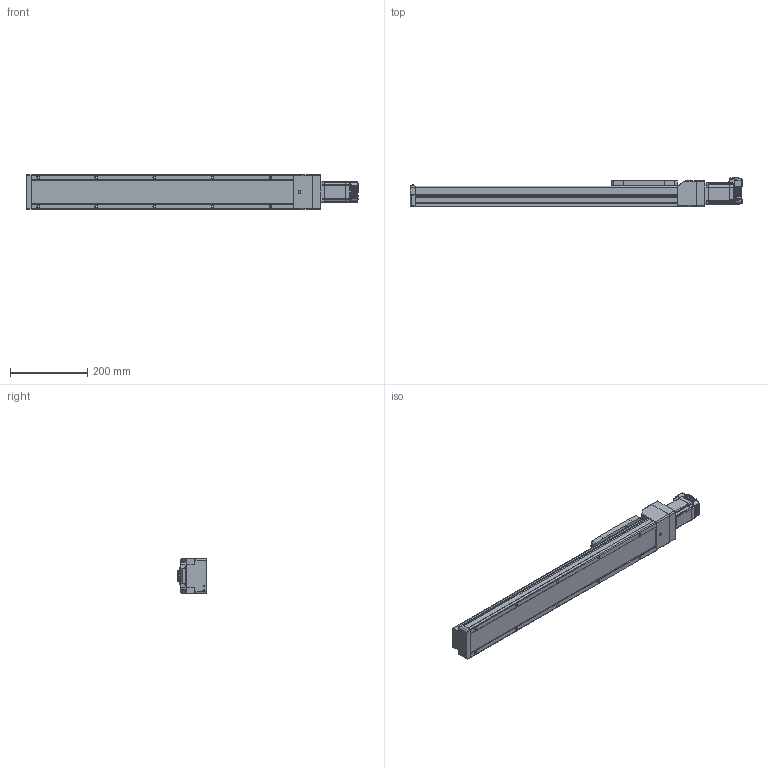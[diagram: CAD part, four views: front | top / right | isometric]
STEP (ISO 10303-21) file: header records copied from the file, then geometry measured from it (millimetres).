
FILE_DESCRIPTION (( 'STEP AP214' ), '1' );
FILE_NAME ('LEFS3(+)-40NM1仩-500-23L.STEP', '2023-06-02T05:11:15', ( '' ), ( '' ), 'SwSTEP 2.0', 'SolidWorks 2019', '' );
FILE_SCHEMA (( 'AUTOMOTIVE_DESIGN' ));
Length unit declared in the file: millimetre
Products named in the file (5): CM3(+)-23L50A_4-M4; LEFS3(+)-40NM1?_BODY_500; LEFS3(+)-40NM1_TABLE; LEFS3(+)-40NM1仩-500-23L; LEFS3(+)-40NM1_Motor Flange
Assembly tree (4 placements, depth 2):
  LEFS3(+)-40NM1仩-500-23L
    LEFS3(+)-40NM1?_BODY_500
    LEFS3(+)-40NM1_TABLE
    LEFS3(+)-40NM1_Motor Flange
    CM3(+)-23L50A_4-M4
Bounding box: 857.6 x 76.75 x 90 mm (x, y, z)
Volume: 3635537 mm3; surface area: 335062.1 mm2
Topology: 5 solids, 14 shells, 1654 faces, 4293 edges, 2656 vertices
Faces by surface type: plane 764, cylinder 519, bspline 133, cone 117, torus 74, sphere 47
Entity records: 56073 total; most frequent: CARTESIAN_POINT 14009, ORIENTED_EDGE 8436, DIRECTION 7866, EDGE_CURVE 4218, AXIS2_PLACEMENT_3D 2676, VERTEX_POINT 2656, VECTOR 2514, LINE 2514
